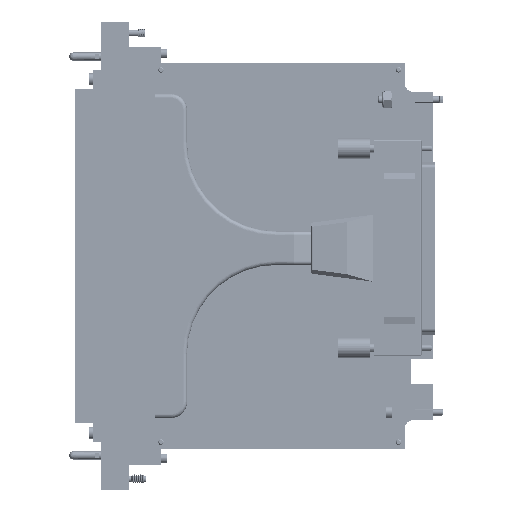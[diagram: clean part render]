
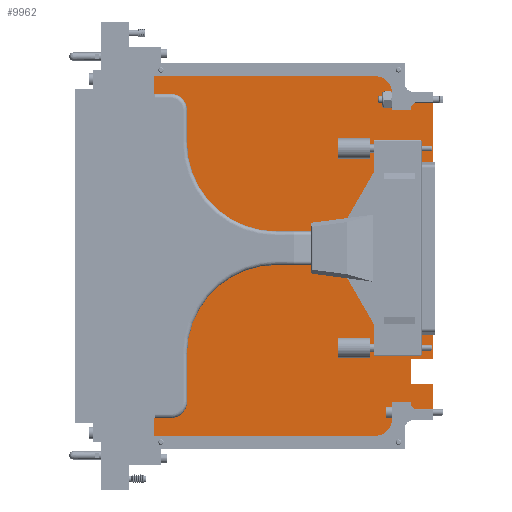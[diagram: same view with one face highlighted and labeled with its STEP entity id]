
A CAD part, front view. The second image highlights one B-rep face of the part: STEP entity #9962.
In plain terms, the highlighted planar face has unit normal (0, -1, 0).
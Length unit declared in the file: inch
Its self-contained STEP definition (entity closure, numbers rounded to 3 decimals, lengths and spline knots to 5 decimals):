
#9741=CARTESIAN_POINT('',(-6.47653,0.74,2.0245));
#9742=VERTEX_POINT('',#9741);
#9743=CARTESIAN_POINT('',(-6.47653,0.74,1.6375));
#9744=VERTEX_POINT('',#9743);
#9745=CARTESIAN_POINT('',(-6.47653,0.74,2.0245));
#9746=DIRECTION('',(0.0,0.0,-1.0));
#9747=VECTOR('',#9746,0.387);
#9748=LINE('',#9745,#9747);
#9749=EDGE_CURVE('',#9742,#9744,#9748,.T.);
#9781=CARTESIAN_POINT('',(-6.12653,0.74,1.6375));
#9782=VERTEX_POINT('',#9781);
#9783=CARTESIAN_POINT('',(-6.47653,0.74,1.6375));
#9784=DIRECTION('',(1.0,0.0,0.0));
#9785=VECTOR('',#9784,0.35);
#9786=LINE('',#9783,#9785);
#9787=EDGE_CURVE('',#9744,#9782,#9786,.T.);
#9812=CARTESIAN_POINT('',(-6.12653,0.74,2.0245));
#9813=VERTEX_POINT('',#9812);
#9814=CARTESIAN_POINT('',(-6.12653,0.74,2.0245));
#9815=DIRECTION('',(-1.0,0.0,0.0));
#9816=VECTOR('',#9815,0.35);
#9817=LINE('',#9814,#9816);
#9818=EDGE_CURVE('',#9813,#9742,#9817,.T.);
#9838=CARTESIAN_POINT('',(-8.29419,0.74,3.6075));
#9839=DIRECTION('',(0.0,1.0,0.0));
#9840=DIRECTION('',(-1.0,0.0,0.0));
#9841=AXIS2_PLACEMENT_3D('',#9838,#9839,#9840);
#9842=PLANE('',#9841);
#9843=ORIENTED_EDGE('',*,*,#9818,.F.);
#9844=CARTESIAN_POINT('',(-6.12653,0.74,6.14096));
#9845=VERTEX_POINT('',#9844);
#9846=CARTESIAN_POINT('',(-6.12653,0.74,2.0245));
#9847=DIRECTION('',(0.0,0.0,1.0));
#9848=VECTOR('',#9847,4.11646);
#9849=LINE('',#9846,#9848);
#9850=EDGE_CURVE('',#9813,#9845,#9849,.T.);
#9851=ORIENTED_EDGE('',*,*,#9850,.T.);
#9852=CARTESIAN_POINT('',(-6.56403,0.74,6.14096));
#9853=VERTEX_POINT('',#9852);
#9854=CARTESIAN_POINT('',(-6.12653,0.74,6.14096));
#9855=DIRECTION('',(-1.0,0.0,0.0));
#9856=VECTOR('',#9855,0.4375);
#9857=LINE('',#9854,#9856);
#9858=EDGE_CURVE('',#9845,#9853,#9857,.T.);
#9859=ORIENTED_EDGE('',*,*,#9858,.T.);
#9860=CARTESIAN_POINT('',(-6.56403,0.74,6.5775));
#9861=VERTEX_POINT('',#9860);
#9862=CARTESIAN_POINT('',(-6.56403,0.74,6.14096));
#9863=DIRECTION('',(0.0,0.0,1.0));
#9864=VECTOR('',#9863,0.43654);
#9865=LINE('',#9862,#9864);
#9866=EDGE_CURVE('',#9853,#9861,#9865,.T.);
#9867=ORIENTED_EDGE('',*,*,#9866,.T.);
#9868=CARTESIAN_POINT('',(-10.42453,0.74,6.5775));
#9869=VERTEX_POINT('',#9868);
#9870=CARTESIAN_POINT('',(-6.56403,0.74,6.5775));
#9871=DIRECTION('',(-1.0,0.0,0.0));
#9872=VECTOR('',#9871,3.8605);
#9873=LINE('',#9870,#9872);
#9874=EDGE_CURVE('',#9861,#9869,#9873,.T.);
#9875=ORIENTED_EDGE('',*,*,#9874,.T.);
#9876=CARTESIAN_POINT('',(-10.42453,0.74,0.6375));
#9877=VERTEX_POINT('',#9876);
#9878=CARTESIAN_POINT('',(-10.42453,0.74,6.5775));
#9879=DIRECTION('',(0.0,0.0,-1.0));
#9880=VECTOR('',#9879,5.94);
#9881=LINE('',#9878,#9880);
#9882=EDGE_CURVE('',#9869,#9877,#9881,.T.);
#9883=ORIENTED_EDGE('',*,*,#9882,.T.);
#9884=CARTESIAN_POINT('',(-6.56403,0.74,0.6375));
#9885=VERTEX_POINT('',#9884);
#9886=CARTESIAN_POINT('',(-10.42453,0.74,0.6375));
#9887=DIRECTION('',(1.0,0.0,0.0));
#9888=VECTOR('',#9887,3.8605);
#9889=LINE('',#9886,#9888);
#9890=EDGE_CURVE('',#9877,#9885,#9889,.T.);
#9891=ORIENTED_EDGE('',*,*,#9890,.T.);
#9892=CARTESIAN_POINT('',(-6.56403,0.74,1.07404));
#9893=VERTEX_POINT('',#9892);
#9894=CARTESIAN_POINT('',(-6.56403,0.74,0.6375));
#9895=DIRECTION('',(0.0,0.0,1.0));
#9896=VECTOR('',#9895,0.43654);
#9897=LINE('',#9894,#9896);
#9898=EDGE_CURVE('',#9885,#9893,#9897,.T.);
#9899=ORIENTED_EDGE('',*,*,#9898,.T.);
#9900=CARTESIAN_POINT('',(-6.12653,0.74,1.07404));
#9901=VERTEX_POINT('',#9900);
#9902=CARTESIAN_POINT('',(-6.56403,0.74,1.07404));
#9903=DIRECTION('',(1.0,0.0,0.0));
#9904=VECTOR('',#9903,0.4375);
#9905=LINE('',#9902,#9904);
#9906=EDGE_CURVE('',#9893,#9901,#9905,.T.);
#9907=ORIENTED_EDGE('',*,*,#9906,.T.);
#9908=CARTESIAN_POINT('',(-6.12653,0.74,1.07404));
#9909=DIRECTION('',(0.0,0.0,1.0));
#9910=VECTOR('',#9909,0.56346);
#9911=LINE('',#9908,#9910);
#9912=EDGE_CURVE('',#9901,#9782,#9911,.T.);
#9913=ORIENTED_EDGE('',*,*,#9912,.T.);
#9914=ORIENTED_EDGE('',*,*,#9787,.F.);
#9915=ORIENTED_EDGE('',*,*,#9749,.F.);
#9916=EDGE_LOOP('',(#9843,#9851,#9859,#9867,#9875,#9883,#9891,#9899,#9907,#9913,#9914,#9915));
#9917=FACE_OUTER_BOUND('',#9916,.T.);
#9918=CARTESIAN_POINT('',(-6.61603,0.74,6.4775));
#9919=VERTEX_POINT('',#9918);
#9920=CARTESIAN_POINT('',(-6.66403,0.74,6.4775));
#9921=DIRECTION('',(0.0,-1.0,0.0));
#9922=DIRECTION('',(-1.0,0.0,0.0));
#9923=AXIS2_PLACEMENT_3D('',#9920,#9921,#9922);
#9924=CIRCLE('',#9923,0.048);
#9925=EDGE_CURVE('',#9919,#9919,#9924,.T.);
#9926=ORIENTED_EDGE('',*,*,#9925,.F.);
#9927=EDGE_LOOP('',(#9926));
#9928=FACE_BOUND('',#9927,.T.);
#9929=CARTESIAN_POINT('',(-10.27653,0.74,6.4775));
#9930=VERTEX_POINT('',#9929);
#9931=CARTESIAN_POINT('',(-10.32453,0.74,6.4775));
#9932=DIRECTION('',(0.0,-1.0,0.0));
#9933=DIRECTION('',(-1.0,0.0,0.0));
#9934=AXIS2_PLACEMENT_3D('',#9931,#9932,#9933);
#9935=CIRCLE('',#9934,0.048);
#9936=EDGE_CURVE('',#9930,#9930,#9935,.T.);
#9937=ORIENTED_EDGE('',*,*,#9936,.F.);
#9938=EDGE_LOOP('',(#9937));
#9939=FACE_BOUND('',#9938,.T.);
#9940=CARTESIAN_POINT('',(-10.27653,0.74,0.7375));
#9941=VERTEX_POINT('',#9940);
#9942=CARTESIAN_POINT('',(-10.32453,0.74,0.7375));
#9943=DIRECTION('',(0.0,-1.0,0.0));
#9944=DIRECTION('',(-1.0,0.0,0.0));
#9945=AXIS2_PLACEMENT_3D('',#9942,#9943,#9944);
#9946=CIRCLE('',#9945,0.048);
#9947=EDGE_CURVE('',#9941,#9941,#9946,.T.);
#9948=ORIENTED_EDGE('',*,*,#9947,.F.);
#9949=EDGE_LOOP('',(#9948));
#9950=FACE_BOUND('',#9949,.T.);
#9951=CARTESIAN_POINT('',(-6.61603,0.74,0.7375));
#9952=VERTEX_POINT('',#9951);
#9953=CARTESIAN_POINT('',(-6.66403,0.74,0.7375));
#9954=DIRECTION('',(0.0,-1.0,0.0));
#9955=DIRECTION('',(-1.0,0.0,0.0));
#9956=AXIS2_PLACEMENT_3D('',#9953,#9954,#9955);
#9957=CIRCLE('',#9956,0.048);
#9958=EDGE_CURVE('',#9952,#9952,#9957,.T.);
#9959=ORIENTED_EDGE('',*,*,#9958,.F.);
#9960=EDGE_LOOP('',(#9959));
#9961=FACE_BOUND('',#9960,.T.);
#9962=ADVANCED_FACE('',(#9917,#9928,#9939,#9950,#9961),#9842,.F.);
